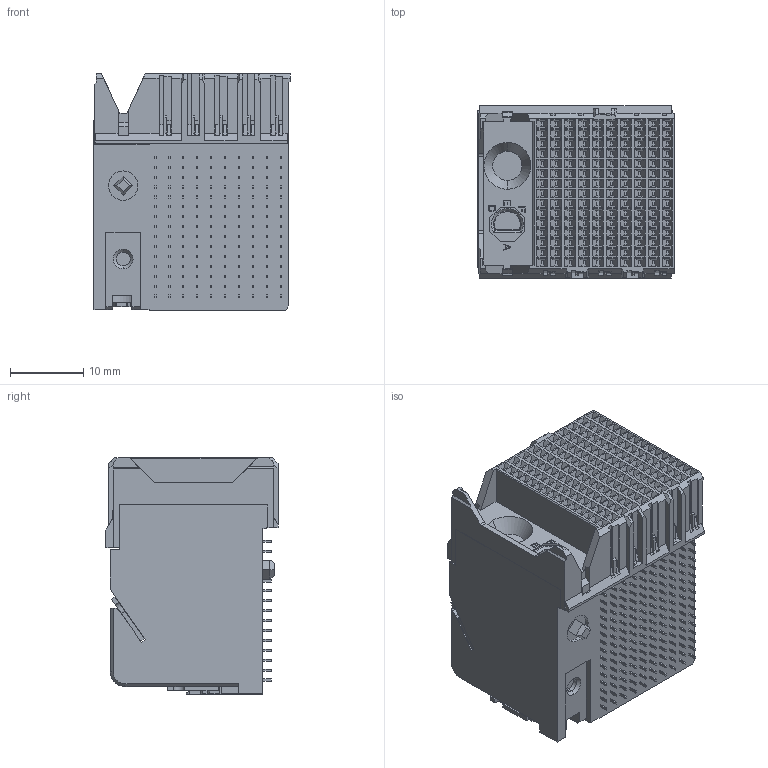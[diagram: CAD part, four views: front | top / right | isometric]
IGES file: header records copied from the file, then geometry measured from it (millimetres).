
Start section:  PTC IGES file: c-1-2110104-1-b-3d.igs
Global section: file name: c-1-2110104-1-b-3d.igs; native system: Creo Parametric by Parametric Technology Corporation; preprocessor: 2014090; author: workeradm; organization: Unknown; units: millimetre
Bounding box: 26.71 x 23.46 x 32.26 mm (x, y, z)
Surface area: 6027.2 mm2 (no closed solid volume)
Topology: 0 solids, 0 shells, 2123 faces, 10712 edges, 10712 vertices
Faces by surface type: bspline 2082, revolution 41
